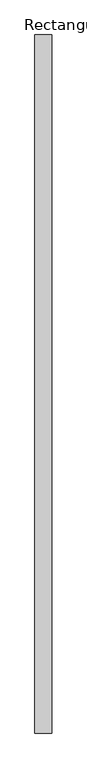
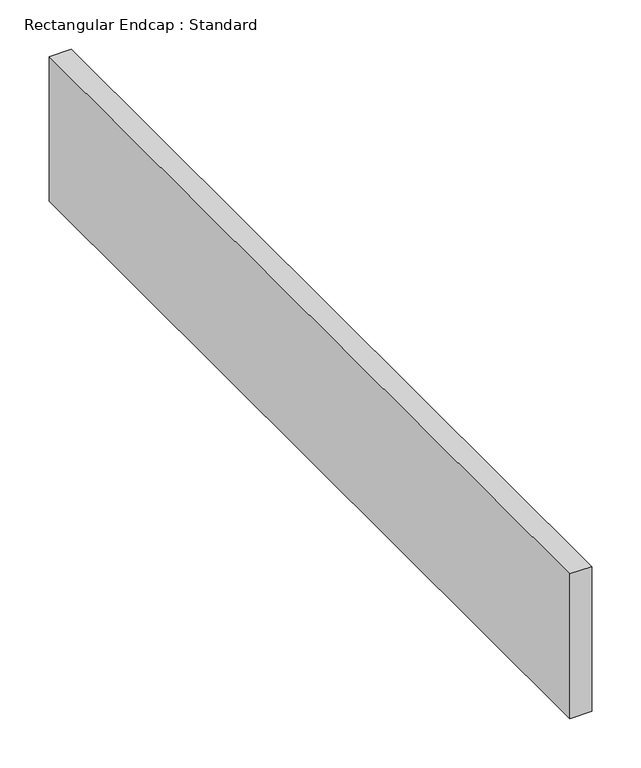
"""IFC4 building model written with IfcOpenShell, lengths in millimetres: duct fitting geometry, Rectangular Endcap : Standard."""

from ifc_helpers import new_model, si_unit, frame, origin, place, context, project, spatial, polyline, outline, extrude, source, transform, mapped, element, save


def rectangular_endcap_standard_76476d20(model_context):
    return source(origin(), model_context, "Body", "SweptSolid", [
        extrude(outline(polyline([(0.0, -527.84375), (0.0, 527.84375), (25.4, 527.84375), (25.4, -527.84375), (0.0, -527.84375)])), frame((0.0, 0.0, -89.69375), z_axis=(0.0, 0.0, 1.0), x_axis=(1.0, 0.0, 0.0)), (0.0, 0.0, 1.0), 179.3875),
    ])


if __name__ == "__main__":
    model = new_model("IFC4")
    model_context = context("Model", 3, world=origin())
    ifc_project = project(units=[si_unit("LENGTHUNIT", "METRE", prefix="MILLI")], contexts=[model_context])
    site = spatial("IfcSite", under=ifc_project)
    building = spatial("IfcBuilding", under=site)
    placement = place(None, origin())
    rectangular_endcap_standard_shape = rectangular_endcap_standard_76476d20(model_context)
    element("IfcDuctFitting", 1, ObjectType="Rectangular Endcap : Standard", at=placement, inside=building, context=model_context, shape_type="MappedRepresentation", body=[
        mapped(rectangular_endcap_standard_shape, transform((0.0, 0.0, 0.0), x_axis=(1.0, 0.0, 0.0), y_axis=(0.0, 1.0, 0.0), z_axis=(0.0, 0.0, 1.0))),
    ])
    save(model, "model.ifc")
